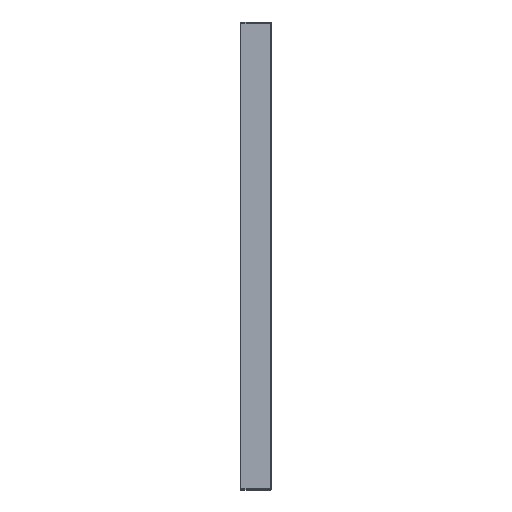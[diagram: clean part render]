
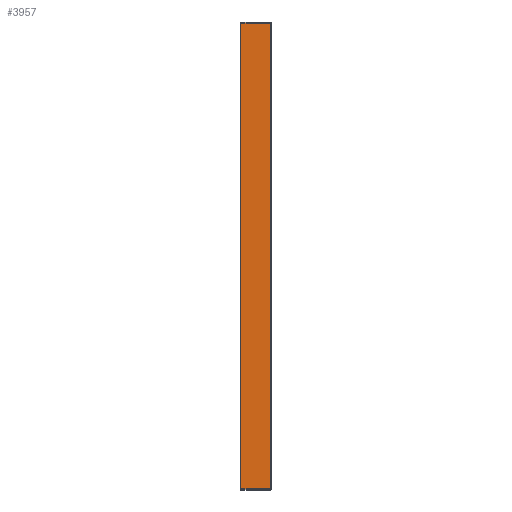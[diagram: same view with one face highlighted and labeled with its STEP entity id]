
A CAD part, left-side view. The second image highlights one B-rep face of the part: STEP entity #3957.
In plain terms, the highlighted planar face has unit normal (-1, 0, 0).
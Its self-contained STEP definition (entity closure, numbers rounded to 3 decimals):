
#128 = DIRECTION ( 'NONE',  ( 0., -1., 0. ) ) ;
#454 = PLANE ( 'NONE',  #7788 ) ;
#471 = EDGE_LOOP ( 'NONE', ( #5178, #620, #8068, #2346 ) ) ;
#478 = DIRECTION ( 'NONE',  ( 0., 0., -1. ) ) ;
#558 = CARTESIAN_POINT ( 'NONE',  ( -21.25, -0.75, 1150. ) ) ;
#620 = ORIENTED_EDGE ( 'NONE', *, *, #1433, .T. ) ;
#719 = LINE ( 'NONE', #8212, #7349 ) ;
#1125 = CARTESIAN_POINT ( 'NONE',  ( -21.25, 73., 1150. ) ) ;
#1285 = VERTEX_POINT ( 'NONE', #8597 ) ;
#1433 = EDGE_CURVE ( 'NONE', #1285, #7426, #4188, .T. ) ;
#1505 = DIRECTION ( 'NONE',  ( 0., 0., -1. ) ) ;
#1923 = VERTEX_POINT ( 'NONE', #1125 ) ;
#2346 = ORIENTED_EDGE ( 'NONE', *, *, #5596, .T. ) ;
#2551 = EDGE_CURVE ( 'NONE', #1923, #7426, #3748, .T. ) ;
#2584 = FACE_OUTER_BOUND ( 'NONE', #471, .T. ) ;
#3630 = CARTESIAN_POINT ( 'NONE',  ( -21.25, 73., 0. ) ) ;
#3748 = LINE ( 'NONE', #4263, #5756 ) ;
#3957 = ADVANCED_FACE ( 'NONE', ( #2584 ), #454, .F. ) ;
#4188 = LINE ( 'NONE', #7782, #7565 ) ;
#4263 = CARTESIAN_POINT ( 'NONE',  ( -21.25, 0., 1150. ) ) ;
#4624 = DIRECTION ( 'NONE',  ( 1., 0., 0. ) ) ;
#5178 = ORIENTED_EDGE ( 'NONE', *, *, #5462, .T. ) ;
#5462 = EDGE_CURVE ( 'NONE', #5850, #1285, #719, .T. ) ;
#5596 = EDGE_CURVE ( 'NONE', #1923, #5850, #6708, .T. ) ;
#5756 = VECTOR ( 'NONE', #128, 1000. ) ;
#5850 = VERTEX_POINT ( 'NONE', #3630 ) ;
#6491 = VECTOR ( 'NONE', #1505, 1000. ) ;
#6708 = LINE ( 'NONE', #8290, #6491 ) ;
#7298 = CARTESIAN_POINT ( 'NONE',  ( -21.25, 0., 1150. ) ) ;
#7349 = VECTOR ( 'NONE', #7523, 1000. ) ;
#7426 = VERTEX_POINT ( 'NONE', #558 ) ;
#7523 = DIRECTION ( 'NONE',  ( 0., -1., 0. ) ) ;
#7565 = VECTOR ( 'NONE', #7753, 1000. ) ;
#7753 = DIRECTION ( 'NONE',  ( 0., 0., 1. ) ) ;
#7782 = CARTESIAN_POINT ( 'NONE',  ( -21.25, -0.75, 1150. ) ) ;
#7788 = AXIS2_PLACEMENT_3D ( 'NONE', #7298, #4624, #478 ) ;
#8068 = ORIENTED_EDGE ( 'NONE', *, *, #2551, .F. ) ;
#8212 = CARTESIAN_POINT ( 'NONE',  ( -21.25, 0., 0. ) ) ;
#8290 = CARTESIAN_POINT ( 'NONE',  ( -21.25, 73., 1150. ) ) ;
#8597 = CARTESIAN_POINT ( 'NONE',  ( -21.25, -0.75, 0. ) ) ;
